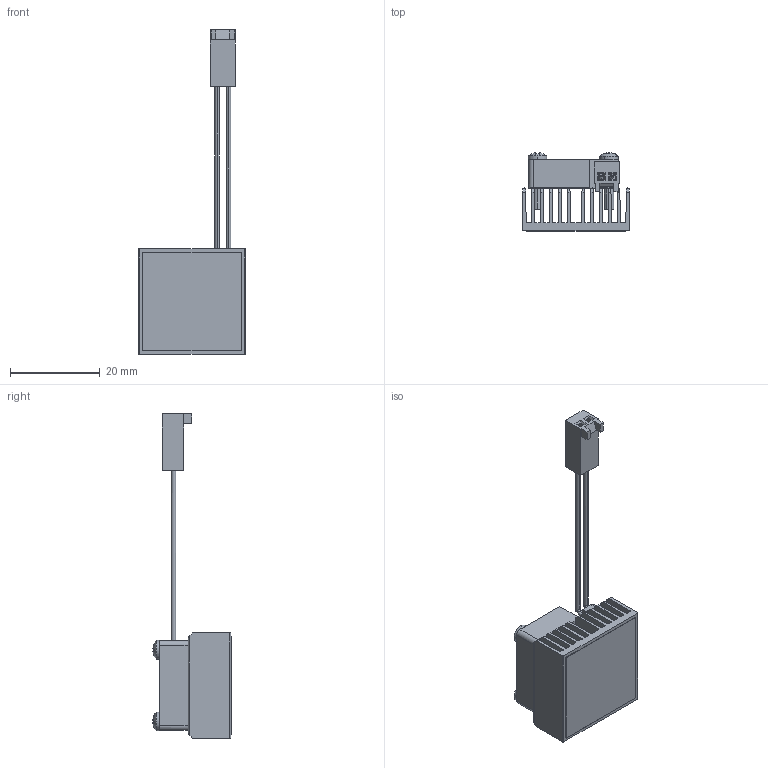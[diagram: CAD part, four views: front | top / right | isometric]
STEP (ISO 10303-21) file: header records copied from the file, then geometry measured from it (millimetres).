
FILE_DESCRIPTION (( 'STEP AP214' ), '1' );
FILE_NAME ('FI24-1.7.STEP', '2023-03-17T09:02:27', ( '' ), ( '' ), 'SwSTEP 2.0', 'SolidWorks 2020', '' );
FILE_SCHEMA (( 'AUTOMOTIVE_DESIGN' ));
Length unit declared in the file: millimetre
Products named in the file (1): FI24-1.7
Bounding box: 23.8 x 17.51 x 72.45 mm (x, y, z)
Volume: 4255.2 mm3; surface area: 10051.7 mm2
Topology: 9 solids, 9 shells, 360 faces, 982 edges, 632 vertices
Faces by surface type: plane 198, cylinder 108, bspline 48, sphere 6
Entity records: 17582 total; most frequent: CARTESIAN_POINT 4856, ORIENTED_EDGE 1926, DIRECTION 1612, EDGE_CURVE 963, VERTEX_POINT 632, VECTOR 596, LINE 596, AXIS2_PLACEMENT_3D 508
